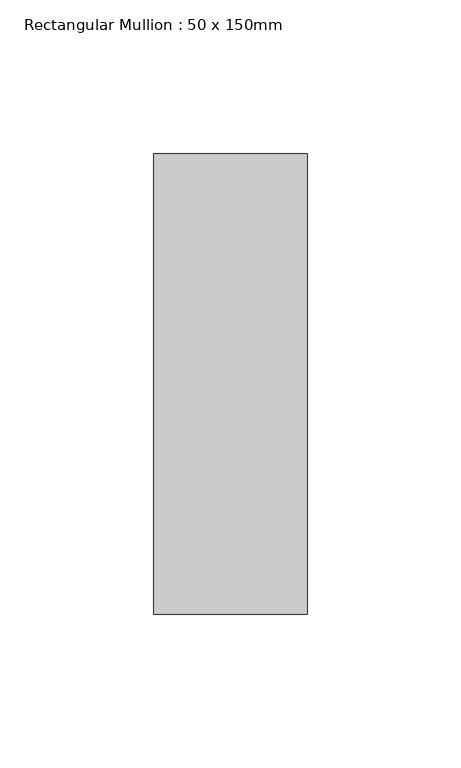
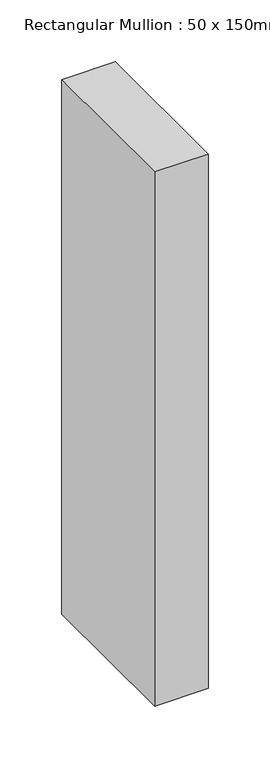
"""IFC4 building model written with IfcOpenShell, lengths in millimetres: member geometry, Rectangular Mullion : 50 x 150mm."""

from ifc_helpers import new_model, si_unit, frame, origin, place, context, project, spatial, polyline, outline, extrude, source, transform, mapped, element, save


def rectangular_mullion_50_x_150mm_cba70100(model_context):
    return source(origin(), model_context, "Body", "SweptSolid", [
        extrude(outline(polyline([(0.0, 0.0), (0.098661, -50.0), (-527.5108607, -50.0), (-527.425092, 0.0), (0.0, 0.0)])), frame((0.0, -75.0, 0.0), z_axis=(0.0, 1.0, 0.0), x_axis=(0.0, 0.0, 1.0)), (0.0, 0.0, 1.0), 150.0),
    ])


if __name__ == "__main__":
    model = new_model("IFC4")
    model_context = context("Model", 3, world=origin())
    ifc_project = project(units=[si_unit("LENGTHUNIT", "METRE", prefix="MILLI")], contexts=[model_context])
    site = spatial("IfcSite", under=ifc_project)
    building = spatial("IfcBuilding", under=site)
    placement = place(None, origin())
    rectangular_mullion_50_x_150mm_shape = rectangular_mullion_50_x_150mm_cba70100(model_context)
    element("IfcMember", 1, ObjectType="Rectangular Mullion : 50 x 150mm", at=placement, inside=building, context=model_context, shape_type="MappedRepresentation", body=[
        mapped(rectangular_mullion_50_x_150mm_shape, transform((0.0, 0.0, 0.0), x_axis=(1.0, 0.0, 0.0), y_axis=(0.0, 1.0, 0.0), z_axis=(0.0, 0.0, 1.0))),
    ])
    save(model, "model.ifc")
